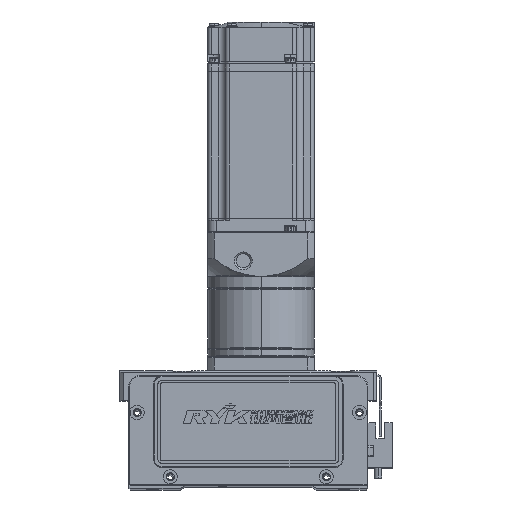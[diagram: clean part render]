
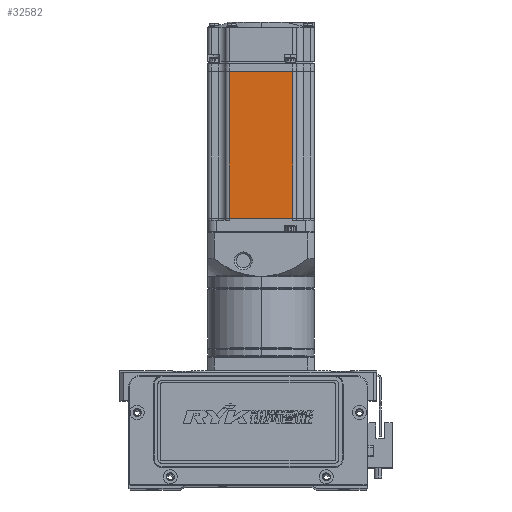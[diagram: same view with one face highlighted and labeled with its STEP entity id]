
A CAD part, top view. The second image highlights one B-rep face of the part: STEP entity #32582.
In plain terms, the highlighted planar face has unit normal (0, 0, 1).
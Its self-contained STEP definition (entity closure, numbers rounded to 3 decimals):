
#662 = VERTEX_POINT ( 'NONE', #41354 ) ;
#5238 = VERTEX_POINT ( 'NONE', #49778 ) ;
#7576 = VECTOR ( 'NONE', #61310, 1000. ) ;
#8107 = VECTOR ( 'NONE', #52871, 1000. ) ;
#9088 = LINE ( 'NONE', #18286, #7576 ) ;
#13629 = ORIENTED_EDGE ( 'NONE', *, *, #41464, .F. ) ;
#13943 = ORIENTED_EDGE ( 'NONE', *, *, #58499, .F. ) ;
#13953 = EDGE_LOOP ( 'NONE', ( #13629, #31321, #30659, #13943 ) ) ;
#16183 = DIRECTION ( 'NONE',  ( -1., 0., 0. ) ) ;
#18286 = CARTESIAN_POINT ( 'NONE',  ( -90.45, 0., 30. ) ) ;
#18686 = CARTESIAN_POINT ( 'NONE',  ( -90.45, 18., 30. ) ) ;
#20128 = LINE ( 'NONE', #40307, #32238 ) ;
#30659 = ORIENTED_EDGE ( 'NONE', *, *, #58332, .T. ) ;
#31321 = ORIENTED_EDGE ( 'NONE', *, *, #60454, .T. ) ;
#32238 = VECTOR ( 'NONE', #16183, 1000. ) ;
#32582 = ADVANCED_FACE ( 'NONE', ( #41480 ), #38989, .T. ) ;
#34581 = AXIS2_PLACEMENT_3D ( 'NONE', #43056, #48321, #43476 ) ;
#38989 = PLANE ( 'NONE',  #34581 ) ;
#39256 = CARTESIAN_POINT ( 'NONE',  ( -90.45, -18., 30. ) ) ;
#40307 = CARTESIAN_POINT ( 'NONE',  ( -6.5, 18., 30. ) ) ;
#41354 = CARTESIAN_POINT ( 'NONE',  ( -7.75, 18., 30. ) ) ;
#41464 = EDGE_CURVE ( 'NONE', #662, #5238, #54607, .T. ) ;
#41480 = FACE_OUTER_BOUND ( 'NONE', #13953, .T. ) ;
#41673 = VECTOR ( 'NONE', #57212, 1000. ) ;
#42799 = CARTESIAN_POINT ( 'NONE',  ( -7.75, 0., 30. ) ) ;
#43056 = CARTESIAN_POINT ( 'NONE',  ( -6.5, -25., 30. ) ) ;
#43476 = DIRECTION ( 'NONE',  ( 1., 0., 0. ) ) ;
#45898 = LINE ( 'NONE', #58310, #8107 ) ;
#48321 = DIRECTION ( 'NONE',  ( 0., 0., 1. ) ) ;
#49654 = VERTEX_POINT ( 'NONE', #18686 ) ;
#49778 = CARTESIAN_POINT ( 'NONE',  ( -7.75, -18., 30. ) ) ;
#52871 = DIRECTION ( 'NONE',  ( -1., 0., 0. ) ) ;
#54607 = LINE ( 'NONE', #42799, #41673 ) ;
#57212 = DIRECTION ( 'NONE',  ( 0., -1., 0. ) ) ;
#58310 = CARTESIAN_POINT ( 'NONE',  ( -6.5, -18., 30. ) ) ;
#58332 = EDGE_CURVE ( 'NONE', #49654, #60362, #9088, .T. ) ;
#58499 = EDGE_CURVE ( 'NONE', #5238, #60362, #45898, .T. ) ;
#60362 = VERTEX_POINT ( 'NONE', #39256 ) ;
#60454 = EDGE_CURVE ( 'NONE', #662, #49654, #20128, .T. ) ;
#61310 = DIRECTION ( 'NONE',  ( 0., -1., 0. ) ) ;
